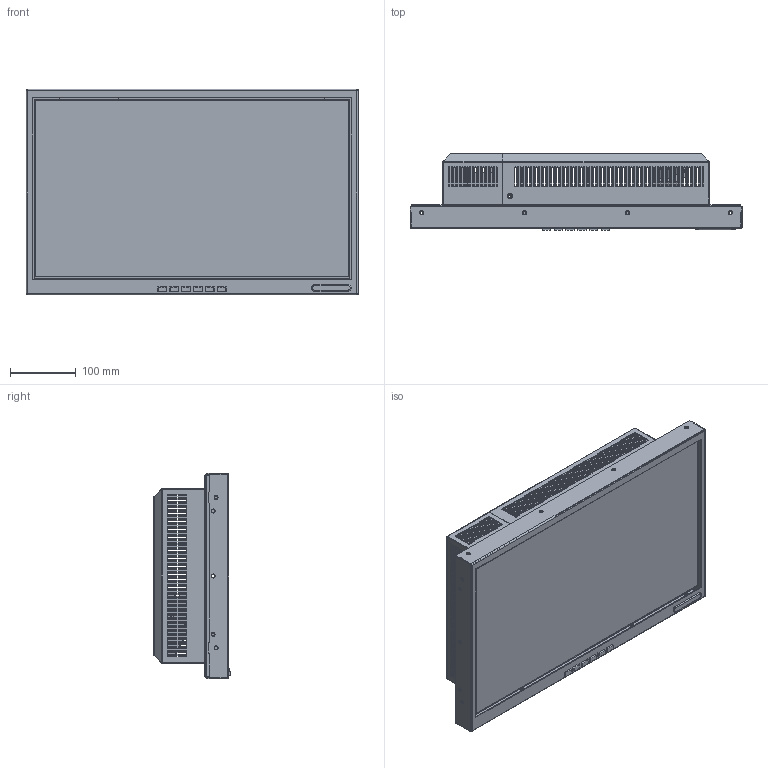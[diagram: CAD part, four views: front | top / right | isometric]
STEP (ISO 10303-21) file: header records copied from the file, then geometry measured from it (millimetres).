
FILE_DESCRIPTION(/* description */ (''),/* implementation_level */ '2;1');
FILE_NAME(/* name */ 'G:\Mechanik\TFT\HD2Line\PDP 21,5W\PDP 21.5W Zur Weitergabe an Extern\PDP 21,5W.stp',/* time_stamp */ '2015-07-20T15:58:50+02:00',/* author */ ('bh'),/* organization */ (''),/* preprocessor_version */ 'ST-DEVELOPER v15.6',/* originating_system */ 'Autodesk Inventor 2015',/* authorisation */ '');
FILE_SCHEMA (('AUTOMOTIVE_DESIGN { 1 0 10303 214 3 1 1 }'));
Products named in the file (1): 21,5 ZOLL_Substitute_1_zum_Export
Bounding box: 503.1 x 116.1 x 311 mm (x, y, z)
Volume: 662818.1 mm3; surface area: 947578.8 mm2
Topology: 18 solids, 18 shells, 2632 faces, 7231 edges, 4653 vertices
Faces by surface type: plane 1463, cylinder 1088, cone 50, torus 20, sphere 9, bspline 2
Full cylindrical faces by diameter (mm): 3.1 x3, 4 x4, 4.1 x6, 4.2 x14, 4.25 x4, 4.3 x18, 4.4 x5, 6 x8, 6.1 x24, 6.15 x4, 7.6 x4, 8.1 x6
Entity records: 101360 total; most frequent: DIRECTION 14658, CARTESIAN_POINT 14368, ORIENTED_EDGE 14008, EDGE_CURVE 7004, AXIS2_PLACEMENT_3D 5023, LINE 4612, VECTOR 4612, VERTEX_POINT 4581
